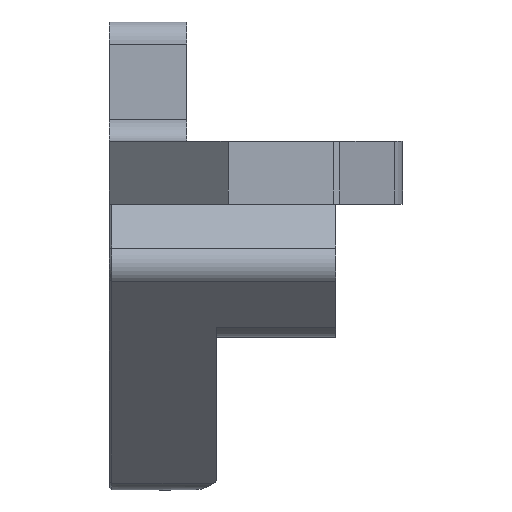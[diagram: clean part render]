
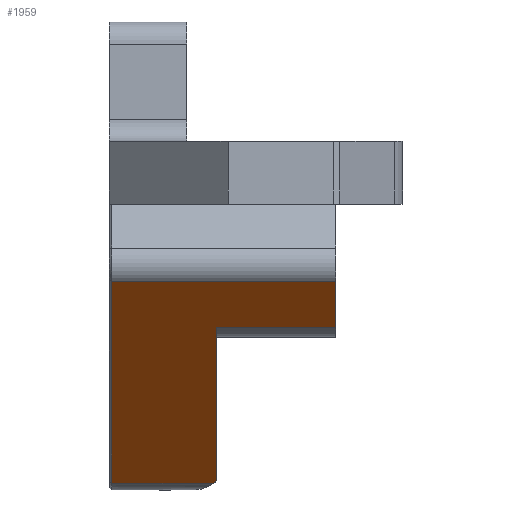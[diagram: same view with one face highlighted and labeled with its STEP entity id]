
A CAD part, left-side view. The second image highlights one B-rep face of the part: STEP entity #1959.
In plain terms, the highlighted planar face has unit normal (-0.707, 0, -0.707).
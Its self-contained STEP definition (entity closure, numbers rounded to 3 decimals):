
#24=ELLIPSE('',#2058,16.546,11.7);
#80=PLANE('',#2104);
#166=LINE('',#3578,#329);
#205=LINE('',#3732,#368);
#213=LINE('',#3750,#376);
#214=LINE('',#3753,#377);
#215=LINE('',#3755,#378);
#216=LINE('',#3756,#379);
#329=VECTOR('',#2368,10.);
#368=VECTOR('',#2477,10.);
#376=VECTOR('',#2495,10.);
#377=VECTOR('',#2500,10.);
#378=VECTOR('',#2501,10.);
#379=VECTOR('',#2502,10.);
#597=FACE_OUTER_BOUND('',#713,.T.);
#713=EDGE_LOOP('',(#1665,#1666,#1667,#1668,#1669,#1670,#1671));
#922=VERTEX_POINT('',#3551);
#923=VERTEX_POINT('',#3553);
#929=VERTEX_POINT('',#3577);
#960=VERTEX_POINT('',#3727);
#961=VERTEX_POINT('',#3731);
#966=VERTEX_POINT('',#3749);
#967=VERTEX_POINT('',#3754);
#1152=EDGE_CURVE('',#923,#922,#24,.T.);
#1159=EDGE_CURVE('',#922,#929,#166,.T.);
#1213=EDGE_CURVE('',#960,#961,#205,.T.);
#1222=EDGE_CURVE('',#961,#966,#213,.T.);
#1224=EDGE_CURVE('',#923,#960,#214,.T.);
#1225=EDGE_CURVE('',#967,#929,#215,.T.);
#1226=EDGE_CURVE('',#966,#967,#216,.T.);
#1665=ORIENTED_EDGE('',*,*,#1213,.F.);
#1666=ORIENTED_EDGE('',*,*,#1224,.F.);
#1667=ORIENTED_EDGE('',*,*,#1152,.T.);
#1668=ORIENTED_EDGE('',*,*,#1159,.T.);
#1669=ORIENTED_EDGE('',*,*,#1225,.F.);
#1670=ORIENTED_EDGE('',*,*,#1226,.F.);
#1671=ORIENTED_EDGE('',*,*,#1222,.F.);
#1959=ADVANCED_FACE('',(#597),#80,.T.);
#2058=AXIS2_PLACEMENT_3D('',#3554,#2357,#2358);
#2104=AXIS2_PLACEMENT_3D('',#3752,#2498,#2499);
#2357=DIRECTION('center_axis',(0.707,0.,0.707));
#2358=DIRECTION('ref_axis',(0.707,0.,-0.707));
#2368=DIRECTION('',(-0.707,0.,0.707));
#2477=DIRECTION('',(-0.707,0.,0.707));
#2495=DIRECTION('',(0.,-1.,0.));
#2498=DIRECTION('center_axis',(-0.707,0.,
-0.707));
#2499=DIRECTION('ref_axis',(0.707,0.,-0.707));
#2500=DIRECTION('',(0.,1.,0.));
#2501=DIRECTION('',(0.,1.,0.));
#2502=DIRECTION('',(0.707,0.,-0.707));
#3551=CARTESIAN_POINT('',(22.698,42.458,-1.687));
#3553=CARTESIAN_POINT('',(22.898,42.745,-1.887));
#3554=CARTESIAN_POINT('Origin',(32.397,35.913,-11.385));
#3577=CARTESIAN_POINT('',(8.775,42.458,12.237));
#3578=CARTESIAN_POINT('',(6.651,42.458,14.36));
#3727=CARTESIAN_POINT('',(22.898,52.008,-1.887));
#3731=CARTESIAN_POINT('',(4.55,52.008,16.462));
#3732=CARTESIAN_POINT('',(10.867,52.008,10.145));
#3749=CARTESIAN_POINT('',(4.55,31.62,16.462));
#3750=CARTESIAN_POINT('',(4.55,40.858,16.462));
#3752=CARTESIAN_POINT('Origin',(4.55,51.908,16.462));
#3753=CARTESIAN_POINT('',(22.898,50.261,-1.887));
#3754=CARTESIAN_POINT('',(8.775,31.62,12.237));
#3755=CARTESIAN_POINT('',(8.775,46.636,12.237));
#3756=CARTESIAN_POINT('',(10.867,31.62,10.145));
